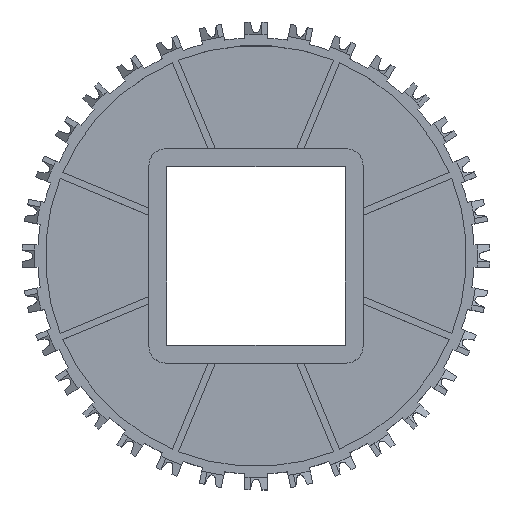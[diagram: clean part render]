
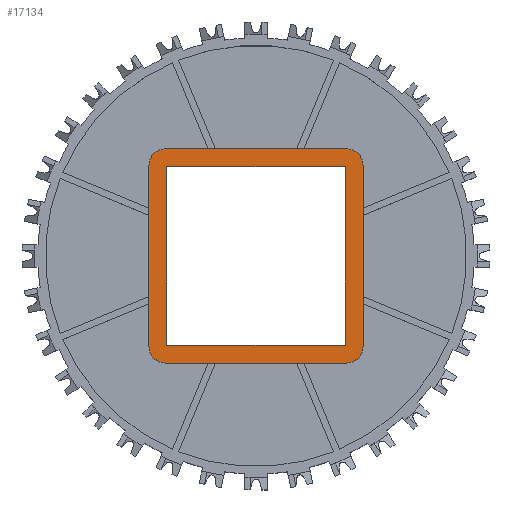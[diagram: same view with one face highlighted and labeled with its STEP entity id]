
A CAD part, top view. The second image highlights one B-rep face of the part: STEP entity #17134.
In plain terms, the highlighted planar face has unit normal (0, 0, 1).
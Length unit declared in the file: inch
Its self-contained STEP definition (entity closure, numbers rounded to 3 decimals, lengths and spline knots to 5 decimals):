
#6822=CARTESIAN_POINT('',(1.1975,-1.1975,0.49));
#6823=DIRECTION('',(0.,0.,1.));
#6824=DIRECTION('',(0.,-1.,0.));
#6825=AXIS2_PLACEMENT_3D('',#6822,#6823,#6824);
#6827=DIRECTION('',(1.,0.,0.));
#6828=VECTOR('',#6827,2.395);
#6829=CARTESIAN_POINT('',(-1.1975,-1.4175,0.49));
#6830=LINE('',#6829,#6828);
#6831=CARTESIAN_POINT('',(-1.1975,-1.1975,0.49));
#6832=DIRECTION('',(0.,0.,1.));
#6833=DIRECTION('',(-1.,0.,0.));
#6834=AXIS2_PLACEMENT_3D('',#6831,#6832,#6833);
#6836=DIRECTION('',(0.,-1.,0.));
#6837=VECTOR('',#6836,2.395);
#6838=CARTESIAN_POINT('',(-1.4175,1.1975,0.49));
#6839=LINE('',#6838,#6837);
#6840=CARTESIAN_POINT('',(-1.1975,1.1975,0.49));
#6841=DIRECTION('',(0.,0.,1.));
#6842=DIRECTION('',(0.,1.,0.));
#6843=AXIS2_PLACEMENT_3D('',#6840,#6841,#6842);
#6845=DIRECTION('',(-1.,0.,0.));
#6846=VECTOR('',#6845,2.395);
#6847=CARTESIAN_POINT('',(1.1975,1.4175,0.49));
#6848=LINE('',#6847,#6846);
#6849=CARTESIAN_POINT('',(1.1975,1.1975,0.49));
#6850=DIRECTION('',(0.,0.,1.));
#6851=DIRECTION('',(1.,0.,0.));
#6852=AXIS2_PLACEMENT_3D('',#6849,#6850,#6851);
#6854=DIRECTION('',(0.,1.,0.));
#6855=VECTOR('',#6854,2.395);
#6856=CARTESIAN_POINT('',(1.4175,-1.1975,0.49));
#6857=LINE('',#6856,#6855);
#6858=DIRECTION('',(0.,-1.,0.));
#6859=VECTOR('',#6858,2.362);
#6860=CARTESIAN_POINT('',(-1.181,1.181,0.49));
#6861=LINE('',#6860,#6859);
#6862=DIRECTION('',(1.,0.,0.));
#6863=VECTOR('',#6862,2.362);
#6864=CARTESIAN_POINT('',(-1.181,-1.181,0.49));
#6865=LINE('',#6864,#6863);
#6866=DIRECTION('',(0.,1.,0.));
#6867=VECTOR('',#6866,2.362);
#6868=CARTESIAN_POINT('',(1.181,-1.181,0.49));
#6869=LINE('',#6868,#6867);
#6870=DIRECTION('',(-1.,0.,0.));
#6871=VECTOR('',#6870,2.362);
#6872=CARTESIAN_POINT('',(1.181,1.181,0.49));
#6873=LINE('',#6872,#6871);
#7585=CARTESIAN_POINT('',(-1.181,1.181,0.49));
#7587=VERTEX_POINT('',#7585);
#7589=CARTESIAN_POINT('',(-1.181,-1.181,0.49));
#7591=VERTEX_POINT('',#7589);
#7593=CARTESIAN_POINT('',(1.181,-1.181,0.49));
#7595=VERTEX_POINT('',#7593);
#7597=CARTESIAN_POINT('',(1.181,1.181,0.49));
#7599=VERTEX_POINT('',#7597);
#8816=CARTESIAN_POINT('',(1.1975,-1.4175,0.49));
#8818=VERTEX_POINT('',#8816);
#8820=CARTESIAN_POINT('',(1.4175,-1.1975,0.49));
#8821=VERTEX_POINT('',#8820);
#8824=CARTESIAN_POINT('',(-1.4175,-1.1975,0.49));
#8826=VERTEX_POINT('',#8824);
#8828=CARTESIAN_POINT('',(-1.1975,-1.4175,0.49));
#8829=VERTEX_POINT('',#8828);
#8848=CARTESIAN_POINT('',(-1.1975,1.4175,0.49));
#8850=VERTEX_POINT('',#8848);
#8852=CARTESIAN_POINT('',(-1.4175,1.1975,0.49));
#8853=VERTEX_POINT('',#8852);
#8872=CARTESIAN_POINT('',(1.4175,1.1975,0.49));
#8874=VERTEX_POINT('',#8872);
#8876=CARTESIAN_POINT('',(1.1975,1.4175,0.49));
#8877=VERTEX_POINT('',#8876);
#17103=CARTESIAN_POINT('',(0.,0.,0.49));
#17104=DIRECTION('',(0.,0.,1.));
#17105=DIRECTION('',(1.,0.,0.));
#17106=AXIS2_PLACEMENT_3D('',#17103,#17104,#17105);
#17107=PLANE('',#17106);
#17109=ORIENTED_EDGE('',*,*,#17108,.F.);
#17111=ORIENTED_EDGE('',*,*,#17110,.F.);
#17112=ORIENTED_EDGE('',*,*,#17094,.F.);
#17113=ORIENTED_EDGE('',*,*,#17053,.F.);
#17115=ORIENTED_EDGE('',*,*,#17114,.F.);
#17117=ORIENTED_EDGE('',*,*,#17116,.F.);
#17119=ORIENTED_EDGE('',*,*,#17118,.F.);
#17121=ORIENTED_EDGE('',*,*,#17120,.F.);
#17122=EDGE_LOOP('',(#17109,#17111,#17112,#17113,#17115,#17117,#17119,#17121));
#17123=FACE_OUTER_BOUND('',#17122,.F.);
#17125=ORIENTED_EDGE('',*,*,#17124,.T.);
#17127=ORIENTED_EDGE('',*,*,#17126,.T.);
#17129=ORIENTED_EDGE('',*,*,#17128,.T.);
#17131=ORIENTED_EDGE('',*,*,#17130,.T.);
#17132=EDGE_LOOP('',(#17125,#17127,#17129,#17131));
#17133=FACE_BOUND('',#17132,.F.);
#17134=ADVANCED_FACE('',(#17123,#17133),#17107,.T.);
#6826=CIRCLE('',#6825,0.22);
#6835=CIRCLE('',#6834,0.22);
#6844=CIRCLE('',#6843,0.22);
#6853=CIRCLE('',#6852,0.22);
#17053=EDGE_CURVE('',#8853,#8826,#6839,.T.);
#17094=EDGE_CURVE('',#8826,#8829,#6835,.T.);
#17108=EDGE_CURVE('',#8818,#8821,#6826,.T.);
#17110=EDGE_CURVE('',#8829,#8818,#6830,.T.);
#17114=EDGE_CURVE('',#8850,#8853,#6844,.T.);
#17116=EDGE_CURVE('',#8877,#8850,#6848,.T.);
#17118=EDGE_CURVE('',#8874,#8877,#6853,.T.);
#17120=EDGE_CURVE('',#8821,#8874,#6857,.T.);
#17124=EDGE_CURVE('',#7587,#7591,#6861,.T.);
#17126=EDGE_CURVE('',#7591,#7595,#6865,.T.);
#17128=EDGE_CURVE('',#7595,#7599,#6869,.T.);
#17130=EDGE_CURVE('',#7599,#7587,#6873,.T.);
